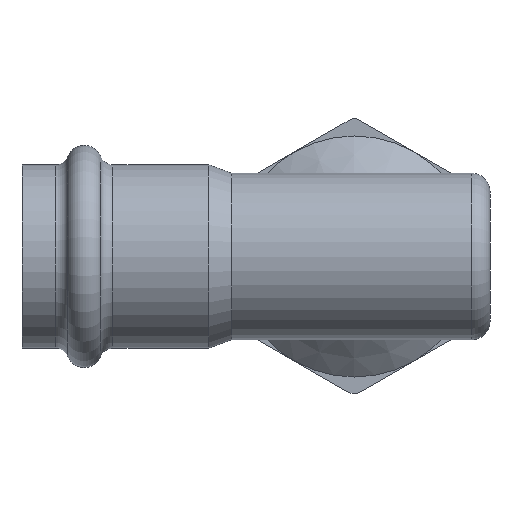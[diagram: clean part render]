
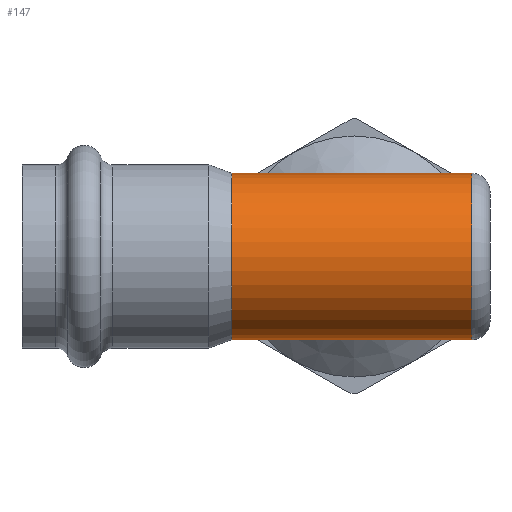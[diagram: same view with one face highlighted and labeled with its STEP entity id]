
A CAD part, front view. The second image highlights one B-rep face of the part: STEP entity #147.
In plain terms, the highlighted cylindrical face has radius 12.7 mm (diameter 25.4 mm), a full revolution.
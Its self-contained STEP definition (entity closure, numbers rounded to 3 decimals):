
#142=ELLIPSE('',#668,18.681,12.7);
#143=ELLIPSE('',#669,18.681,12.7);
#147=ADVANCED_FACE('',(#241,#242,#243),#189,.T.);
#189=CYLINDRICAL_SURFACE('',#672,12.7);
#204=CIRCLE('',#670,12.7);
#205=CIRCLE('',#671,12.7);
#241=FACE_BOUND('',#293,.T.);
#242=FACE_BOUND('',#294,.T.);
#243=FACE_BOUND('',#295,.T.);
#293=EDGE_LOOP('',(#415,#416));
#294=EDGE_LOOP('',(#417));
#295=EDGE_LOOP('',(#418));
#415=ORIENTED_EDGE('',*,*,#601,.T.);
#416=ORIENTED_EDGE('',*,*,#602,.T.);
#417=ORIENTED_EDGE('',*,*,#603,.T.);
#418=ORIENTED_EDGE('',*,*,#604,.F.);
#549=VERTEX_POINT('',#989);
#550=VERTEX_POINT('',#990);
#551=VERTEX_POINT('',#993);
#552=VERTEX_POINT('',#995);
#601=EDGE_CURVE('',#549,#550,#142,.T.);
#602=EDGE_CURVE('',#550,#549,#143,.T.);
#603=EDGE_CURVE('',#551,#551,#204,.T.);
#604=EDGE_CURVE('',#552,#552,#205,.T.);
#668=AXIS2_PLACEMENT_3D('',#988,#755,#756);
#669=AXIS2_PLACEMENT_3D('',#991,#757,#758);
#670=AXIS2_PLACEMENT_3D('',#992,#759,#760);
#671=AXIS2_PLACEMENT_3D('',#994,#761,#762);
#672=AXIS2_PLACEMENT_3D('',#996,#763,#764);
#755=DIRECTION('',(-0.68,-0.733,0.));
#756=DIRECTION('',(-0.733,0.68,0.));
#757=DIRECTION('',(0.68,-0.733,0.));
#758=DIRECTION('',(-0.733,-0.68,0.));
#759=DIRECTION('',(-1.,0.,0.));
#760=DIRECTION('',(0.,0.,1.));
#761=DIRECTION('',(-1.,0.,0.));
#762=DIRECTION('',(0.,0.,1.));
#763=DIRECTION('',(-1.,0.,0.));
#764=DIRECTION('',(0.,0.,1.));
#988=CARTESIAN_POINT('',(0.,0.,0.));
#989=CARTESIAN_POINT('',(0.,0.,12.7));
#990=CARTESIAN_POINT('',(0.,0.,-12.7));
#991=CARTESIAN_POINT('',(0.,0.,0.));
#992=CARTESIAN_POINT('',(17.9,0.,0.));
#993=CARTESIAN_POINT('',(17.9,0.,12.7));
#994=CARTESIAN_POINT('',(-18.682,0.,0.));
#995=CARTESIAN_POINT('',(-18.682,0.,12.7));
#996=CARTESIAN_POINT('',(-12.7,0.,0.));
